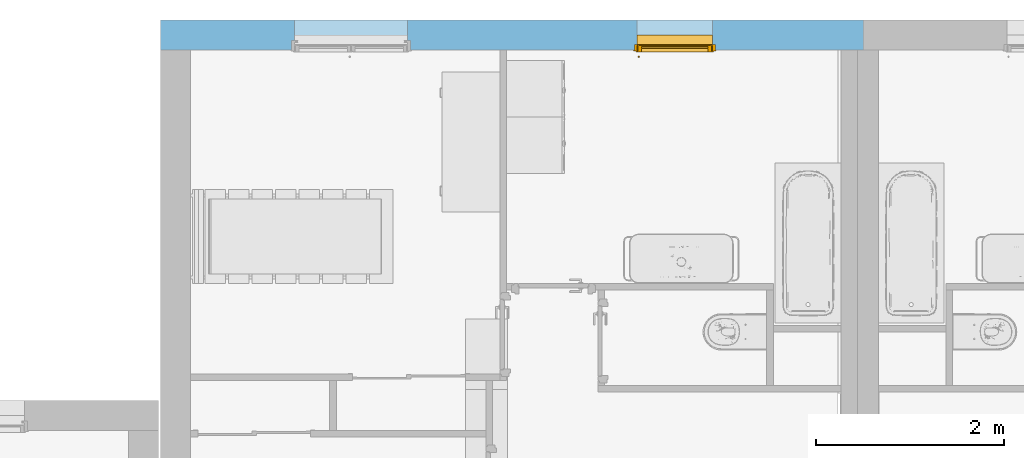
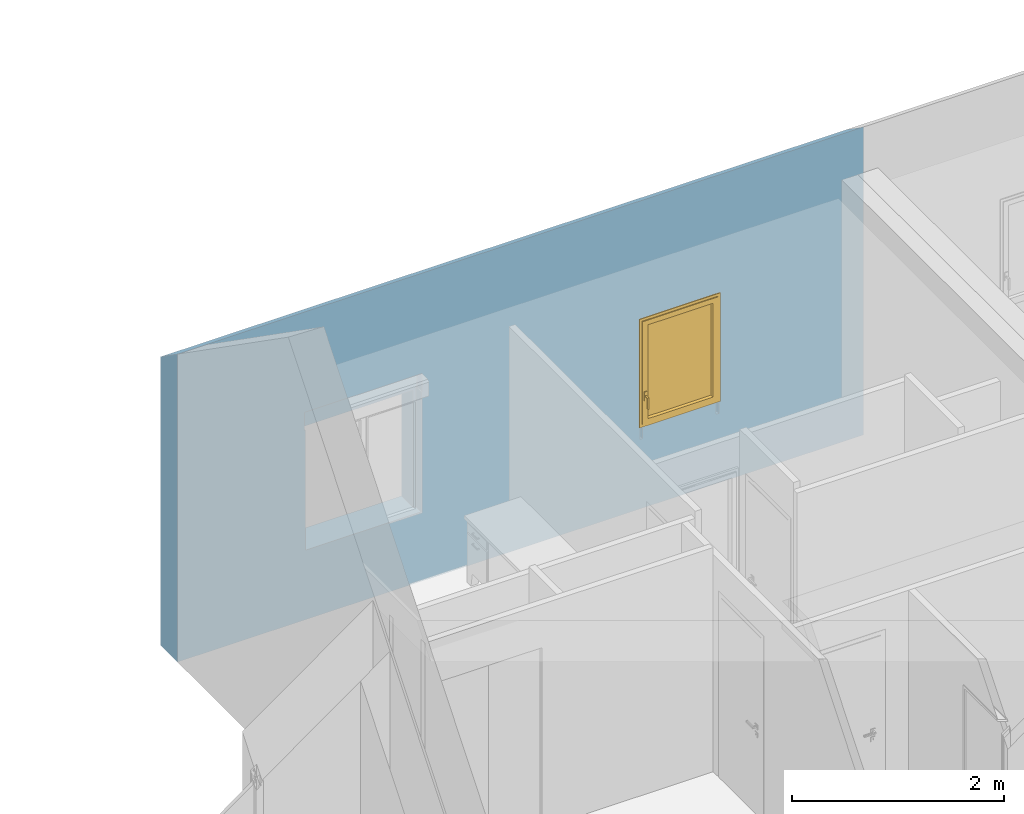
# One storey, part 48 of 61: 1 window, 2 openings, plus 1 element that does not belong to this part.
"""IFC2X3 building model written with IfcOpenShell, lengths in metres."""

from ifc_helpers import new_model, entity, si_unit, converted_unit, derived_unit, direction, frame, frame_2d, origin, place, context, subcontext, project, spatial, polyline, rectangle, extrude, clip, bounded_halfspace, faceted_brep, source, transform, mapped, material, material_list, layer, layer_set, layer_usage, type_object, type_shapes, element, fill, save


model = new_model("IFC2X3")

# Units and contexts
model_context = context("Model", 3, precision=1e-05, world=origin(), true_north=direction((6.12303176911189e-17, 1.0)))
body_context = subcontext(model_context, "Body", "Model", "MODEL_VIEW")
ifc_project = project(units=[si_unit("LENGTHUNIT", "METRE"), si_unit("AREAUNIT", "SQUARE_METRE"), si_unit("VOLUMEUNIT", "CUBIC_METRE"), converted_unit("PLANEANGLEUNIT", "DEGREE", entity("IfcRatioMeasure", 0.0174532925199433), si_unit("PLANEANGLEUNIT", "RADIAN"), dimensions=[0, 0, 0, 0, 0, 0, 0]), si_unit("MASSUNIT", "GRAM", prefix="KILO"), derived_unit("MASSDENSITYUNIT", [(si_unit("MASSUNIT", "GRAM", prefix="KILO"), 1), (si_unit("LENGTHUNIT", "METRE"), -3)]), si_unit("TIMEUNIT", "SECOND"), si_unit("FREQUENCYUNIT", "HERTZ"), si_unit("THERMODYNAMICTEMPERATUREUNIT", "DEGREE_CELSIUS"), derived_unit("THERMALTRANSMITTANCEUNIT", [(si_unit("MASSUNIT", "GRAM", prefix="KILO"), 1), (si_unit("THERMODYNAMICTEMPERATUREUNIT", "KELVIN"), -1), (si_unit("TIMEUNIT", "SECOND"), -3)]), derived_unit("VOLUMETRICFLOWRATEUNIT", [(si_unit("LENGTHUNIT", "METRE"), 3), (si_unit("TIMEUNIT", "SECOND"), -1)]), si_unit("ELECTRICCURRENTUNIT", "AMPERE"), si_unit("ELECTRICVOLTAGEUNIT", "VOLT"), si_unit("POWERUNIT", "WATT"), si_unit("FORCEUNIT", "NEWTON", prefix="KILO"), si_unit("ILLUMINANCEUNIT", "LUX"), si_unit("LUMINOUSFLUXUNIT", "LUMEN"), si_unit("LUMINOUSINTENSITYUNIT", "CANDELA"), derived_unit("USERDEFINED", [(si_unit("MASSUNIT", "GRAM", prefix="KILO"), -1), (si_unit("LENGTHUNIT", "METRE"), -2), (si_unit("TIMEUNIT", "SECOND"), 3), (si_unit("LUMINOUSFLUXUNIT", "LUMEN"), 1)]), derived_unit("LINEARVELOCITYUNIT", [(si_unit("LENGTHUNIT", "METRE"), 1), (si_unit("TIMEUNIT", "SECOND"), -1)]), si_unit("PRESSUREUNIT", "PASCAL"), derived_unit("USERDEFINED", [(si_unit("LENGTHUNIT", "METRE"), -2), (si_unit("MASSUNIT", "GRAM", prefix="KILO"), 1), (si_unit("TIMEUNIT", "SECOND"), -2)])], contexts=[model_context])

# Site, building, storey
site_placement = place(None, origin())
site = spatial("IfcSite", under=ifc_project, at=site_placement, Name="Surface", CompositionType="ELEMENT")
building_placement = place(site_placement, origin())
building = spatial("IfcBuilding", under=site, at=building_placement, CompositionType="ELEMENT")
storey_placement = place(building_placement, frame((0.0, 0.0, 2.82)))
storey = spatial("IfcBuildingStorey", under=building, at=storey_placement, Name="ETAGE", CompositionType="ELEMENT", Elevation=2.82)

# Wall, openings, window
ifc_material_1 = material(Name="Enduit blanc cassé2")
ifc_layer_1 = layer(ifc_material_1, 0.02)
ifc_material_2 = material(Name="Parpaing")
ifc_layer_2 = layer(ifc_material_2, 0.2)
ifc_material_3 = material(Name="Isolant")
ifc_layer_3 = layer(ifc_material_3, 0.1)
ifc_layer_set = layer_set([ifc_layer_1, ifc_layer_2, ifc_layer_3], Name="Mur de base:Ext. Parpaing 20 + Isolant 10 enduit blanc cassé")
ifc_layer_usage = layer_usage(ifc_layer_set, "AXIS2", "POSITIVE", -0.16)
wall_type = type_object("IfcWallType", Name="Mur de base:Ext. Parpaing 20 + Isolant 10 enduit blanc cassé", PredefinedType="STANDARD", material=ifc_layer_set)
wall_placement = place(storey_placement, frame((83.7689023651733, 92.3075239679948, 0.0), z_axis=(0.0, 0.0, 1.0), x_axis=(-1.0, 0.0, 0.0)))
wall = element("IfcWallStandardCase", 1, at=wall_placement, inside=storey, type_object=wall_type, material=ifc_layer_usage, Name="Mur de base:Ext. Parpaing 20 + Isolant 10 enduit blanc cassé", ObjectType="Mur de base:Ext. Parpaing 20 + Isolant 10 enduit blanc cassé", context=body_context, shape_type="Clipping", body=[
    clip(extrude(rectangle(XDim=7.46614635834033, YDim=0.319999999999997, at=frame_2d((3.73307317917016, -2.55351295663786e-15), x_axis=(-1.0, 0.0))), origin(), (0.0, 0.0, 1.0), 3.5440664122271), bounded_halfspace(frame((0.0, -0.159999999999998, 3.32), z_axis=(0.0, -0.573576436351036, 0.819152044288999), x_axis=(1.0, 0.0, 0.0)), False, frame((0.0, -0.159999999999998, 3.32)), polyline([(0.0, 0.0), (7.46614635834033, 0.0), (7.46614635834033, 0.319999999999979), (7.14614635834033, 0.319999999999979), (0.237500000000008, 0.319999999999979), (0.0625000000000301, 0.319999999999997), (0.0175000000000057, 0.319999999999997), (0.0, 0.319999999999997), (0.0, 0.0)]))),
])
opening_1_placement = place(wall_placement, frame((2.43394170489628, 0.259999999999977, 0.799999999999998), z_axis=(0.0, 0.0, 1.0), x_axis=(-1.0, 0.0, 0.0)))
opening_1 = element("IfcOpeningElement", 2, at=opening_1_placement, cuts=wall, Name="Mur de base:Ext. Parpaing 20 + Isolant 10 enduit blanc cassé", ObjectType="Opening", context=body_context, shape_type="Brep", body=[
    faceted_brep([(0.830000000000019, 0.0, 1.35), (0.830000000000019, 0.0999999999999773, 1.35), (0.0300000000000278, 0.0999999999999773, 1.35), (0.0300000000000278, 0.0, 1.35), (0.830000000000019, 0.720000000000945, 0.150000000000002), (0.830000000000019, 0.159999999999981, 0.150000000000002), (0.830000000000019, 0.0999999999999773, 0.150000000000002), (0.830000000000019, 0.0, 0.150000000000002), (0.0300000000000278, 0.0, 0.150000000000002), (0.0300000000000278, 0.0999999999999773, 0.150000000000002), (0.0300000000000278, 0.159999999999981, 0.150000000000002), (0.0300000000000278, 0.720000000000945, 0.150000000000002), (0.830000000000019, 0.720000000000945, 1.35), (0.0300000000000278, 0.720000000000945, 1.35), (0.830000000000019, 0.159999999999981, 1.35), (0.0300000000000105, 0.159999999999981, 0.0), (0.0300000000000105, 0.0999999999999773, 0.0), (0.0, 0.0999999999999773, 0.0), (0.0, 0.159999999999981, 0.0), (0.830000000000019, 0.0999999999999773, 0.0), (0.860000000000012, 0.0999999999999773, 0.0), (0.860000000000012, 0.0999999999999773, 1.38), (0.0, 0.0999999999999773, 1.38), (0.0, 0.159999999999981, 1.38), (0.860000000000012, 0.159999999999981, 1.38), (0.860000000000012, 0.159999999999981, 0.0), (0.830000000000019, 0.159999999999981, 0.0), (0.0300000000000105, 0.159999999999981, 1.35)], [[[0, 1, 2, 3]], [[4, 5, 6, 7, 8, 9, 10, 11]], [[12, 4, 11, 13]], [[3, 2, 9, 8]], [[3, 8, 7, 0]], [[12, 14, 5, 4]], [[15, 16, 17, 18]], [[15, 10, 9, 16]], [[16, 9, 2, 1, 6, 19, 20, 21, 22, 17]], [[17, 22, 23, 18]], [[18, 23, 24, 25, 26, 5, 14, 27, 10, 15]], [[21, 24, 23, 22]], [[19, 26, 25, 20]], [[19, 6, 5, 26]], [[20, 25, 24, 21]], [[7, 6, 1, 0]], [[11, 10, 27, 13]], [[13, 27, 14, 12]]]),
])
opening_2_placement = place(wall_placement, frame((6.0830731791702, 0.260000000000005, 0.799999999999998), z_axis=(0.0, 0.0, 1.0), x_axis=(-1.0, 0.0, 0.0)))
element("IfcOpeningElement", 3, at=opening_2_placement, cuts=wall, Name="Mur de base:Ext. Parpaing 20 + Isolant 10 enduit blanc cassé", ObjectType="Opening", context=body_context, shape_type="Brep", body=[
    faceted_brep([(1.24000000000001, 0.720000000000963, 1.35), (0.0400000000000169, 0.720000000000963, 1.35), (0.0400000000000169, 0.199999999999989, 1.35), (1.24000000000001, 0.200000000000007, 1.35), (0.0400000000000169, 0.720000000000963, 0.0), (1.24000000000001, 0.720000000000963, 0.0), (1.24000000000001, 0.200000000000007, 0.0), (1.27000000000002, 0.200000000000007, 0.0), (1.27000000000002, 0.0999999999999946, 0.0), (1.24000000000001, 0.0999999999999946, 0.0), (1.24000000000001, 0.0, 0.0), (0.0400000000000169, 0.0, 0.0), (0.0400000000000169, 0.0999999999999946, 0.0), (0.0100000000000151, 0.0999999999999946, 0.0), (0.0100000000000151, 0.199999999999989, 0.0), (0.0400000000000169, 0.199999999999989, 0.0), (1.24000000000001, 0.0, 1.35), (0.0400000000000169, 0.0, 1.35), (1.27000000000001, 0.0999999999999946, 1.38), (1.28000000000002, 0.100000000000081, 1.38000000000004), (1.28000000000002, 0.100000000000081, 1.59000000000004), (0.0, 0.100000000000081, 1.59000000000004), (0.0, 0.0999999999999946, 1.38000000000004), (0.0100000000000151, 0.0999999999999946, 1.38), (0.0400000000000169, 0.0999999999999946, 1.35), (1.24000000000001, 0.0999999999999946, 1.35), (1.27000000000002, 0.199999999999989, 1.38000000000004), (0.0100000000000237, 0.199999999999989, 1.38000000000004), (0.0, 0.200000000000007, 1.38000000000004), (0.0, 0.199999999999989, 1.59000000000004), (1.28000000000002, 0.200000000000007, 1.59000000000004), (1.28000000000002, 0.200000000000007, 1.38000000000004)], [[[0, 1, 2, 3]], [[4, 5, 6, 7, 8, 9, 10, 11, 12, 13, 14, 15]], [[1, 0, 5, 4]], [[5, 0, 3, 6]], [[16, 17, 11, 10]], [[1, 4, 15, 2]], [[9, 8, 18, 19, 20, 21, 22, 23, 13, 12, 24, 25]], [[8, 7, 26, 18]], [[7, 6, 3, 2, 15, 14, 27, 28, 29, 30, 31, 26]], [[13, 23, 27, 14]], [[31, 30, 20, 19]], [[28, 22, 21, 29]], [[31, 19, 18, 26]], [[20, 30, 29, 21]], [[22, 28, 27, 23]], [[11, 17, 24, 12]], [[16, 10, 9, 25]], [[17, 16, 25, 24]]]),
])
ifc_material_4 = material(Name="Plastique - Bouvet - Blanc W012")
ifc_material_5 = material(Name="Verre - Bouvet - Vitrage")
ifc_material_6 = material(Name="Polyamide - Bouvet - Joint-Intercalaire")
ifc_material_list_1 = material_list([ifc_material_4, ifc_material_5, ifc_material_6])
ifc_material_list_2 = material_list([ifc_material_4, ifc_material_5, ifc_material_6])
window_style = type_object("IfcWindowStyle", Name="800 x 120 ht", ConstructionType="NOTDEFINED", OperationType="NOTDEFINED", ParameterTakesPrecedence=False, Sizeable=False, material=ifc_material_list_2)
shared_shape = source(origin(), body_context, "Body", "Brep", [
    faceted_brep([(0.0549999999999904, 0.07000000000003, 0.492500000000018), (0.0399999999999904, 0.0700000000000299, 0.492500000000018), (0.0399999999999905, 0.0700000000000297, 0.507500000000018), (0.0549999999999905, 0.0700000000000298, 0.507500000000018), (0.0549999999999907, 0.0350000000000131, 0.492500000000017), (0.0399999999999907, 0.035000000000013, 0.492500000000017), (0.0399999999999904, 0.035000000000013, 0.3775), (0.0399999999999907, 0.020000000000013, 0.3775), (0.0399999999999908, 0.0200000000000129, 0.507500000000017), (0.0549999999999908, 0.0200000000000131, 0.507500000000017), (0.0549999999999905, 0.0200000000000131, 0.3775), (0.0549999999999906, 0.0350000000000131, 0.3775)], [[[0, 1, 2, 3]], [[1, 0, 4, 5]], [[2, 1, 5, 6, 7, 8]], [[3, 2, 8, 9]], [[0, 3, 9, 10, 11, 4]], [[11, 10, 7, 6]], [[5, 4, 11, 6]], [[9, 8, 7, 10]]]),
    faceted_brep([(0.0625000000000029, 0.0700000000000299, 0.550000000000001), (0.0325000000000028, 0.07000000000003, 0.550000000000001), (0.0325000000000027, 0.07000000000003, 0.450000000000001), (0.0625000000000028, 0.0700000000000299, 0.450000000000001), (0.062500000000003, 0.0799999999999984, 0.550000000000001), (0.0625000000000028, 0.0799999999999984, 0.450000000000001), (0.0325000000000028, 0.0799999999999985, 0.450000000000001), (0.0325000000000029, 0.0799999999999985, 0.550000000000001)], [[[0, 1, 2, 3]], [[4, 5, 6, 7]], [[1, 0, 4, 7]], [[2, 1, 7, 6]], [[3, 2, 6, 5]], [[0, 3, 5, 4]]]),
    faceted_brep([(0.796999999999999, 0.117999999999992, 0.213), (0.0630000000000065, 0.117999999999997, 0.213), (0.0630000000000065, 0.121999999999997, 0.213), (0.796999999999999, 0.121999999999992, 0.213), (0.796999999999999, 0.117999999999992, 1.31700000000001), (0.0630000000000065, 0.117999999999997, 1.31700000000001), (0.0630000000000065, 0.121999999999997, 1.31700000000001), (0.796999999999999, 0.121999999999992, 1.31700000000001)], [[[0, 1, 2, 3]], [[4, 5, 1, 0]], [[5, 6, 2, 1]], [[6, 7, 3, 2]], [[7, 4, 0, 3]], [[4, 7, 6, 5]]]),
    faceted_brep([(0.0630000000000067, 0.137999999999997, 1.31700000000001), (0.0630000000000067, 0.141999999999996, 1.31700000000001), (0.0630000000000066, 0.141999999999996, 0.213), (0.0630000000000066, 0.137999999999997, 0.213), (0.796999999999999, 0.141999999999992, 1.31700000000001), (0.796999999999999, 0.141999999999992, 0.213), (0.796999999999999, 0.137999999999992, 1.31700000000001), (0.796999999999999, 0.137999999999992, 0.213)], [[[0, 1, 2, 3]], [[1, 4, 5, 2]], [[4, 6, 7, 5]], [[6, 0, 3, 7]], [[0, 6, 4, 1]], [[3, 2, 5, 7]]]),
    faceted_brep([(0.0750000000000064, 0.137999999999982, 1.30499999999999), (0.0750000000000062, 0.121999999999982, 1.30499999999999), (0.0750000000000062, 0.121999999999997, 0.225000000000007), (0.0750000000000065, 0.137999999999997, 0.225000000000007), (0.784999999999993, 0.121999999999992, 0.225000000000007), (0.784999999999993, 0.137999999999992, 0.225000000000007), (0.784999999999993, 0.121999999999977, 1.30499999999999), (0.796999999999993, 0.121999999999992, 0.213000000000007), (0.796999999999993, 0.121999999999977, 1.31699999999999), (0.0630000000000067, 0.121999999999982, 1.31699999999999), (0.0630000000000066, 0.121999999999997, 0.213000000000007), (0.784999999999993, 0.137999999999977, 1.30499999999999), (0.0630000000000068, 0.137999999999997, 0.213000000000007), (0.0630000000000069, 0.137999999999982, 1.31699999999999), (0.796999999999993, 0.137999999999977, 1.31699999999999), (0.796999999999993, 0.137999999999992, 0.213000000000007)], [[[0, 1, 2, 3]], [[3, 2, 4, 5]], [[2, 1, 6, 4], [7, 8, 9, 10]], [[5, 4, 6, 11]], [[5, 11, 0, 3], [12, 13, 14, 15]], [[9, 13, 12, 10]], [[10, 12, 15, 7]], [[7, 15, 14, 8]], [[11, 6, 1, 0]], [[8, 14, 13, 9]]], outer=[[True], [True], [False, True], [True], [False, True], [True], [True], [True], [True], [True]]),
    faceted_brep([(0.0630000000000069, 0.141999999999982, 1.31699999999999), (0.0630000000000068, 0.117999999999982, 1.31699999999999), (0.0630000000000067, 0.117999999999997, 0.213000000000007), (0.0630000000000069, 0.141999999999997, 0.213000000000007), (0.796999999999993, 0.117999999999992, 0.213000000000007), (0.796999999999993, 0.141999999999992, 0.213000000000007), (0.796999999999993, 0.117999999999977, 1.31699999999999), (0.804999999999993, 0.117999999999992, 0.205000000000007), (0.804999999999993, 0.117999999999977, 1.32499999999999), (0.0550000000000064, 0.117999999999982, 1.32499999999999), (0.0550000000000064, 0.117999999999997, 0.205000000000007), (0.796999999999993, 0.141999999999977, 1.31699999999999), (0.0550000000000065, 0.141999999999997, 0.205000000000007), (0.0550000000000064, 0.141999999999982, 1.32499999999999), (0.804999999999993, 0.141999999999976, 1.32499999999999), (0.804999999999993, 0.141999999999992, 0.205000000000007)], [[[0, 1, 2, 3]], [[3, 2, 4, 5]], [[2, 1, 6, 4], [7, 8, 9, 10]], [[5, 4, 6, 11]], [[5, 11, 0, 3], [12, 13, 14, 15]], [[9, 13, 12, 10]], [[10, 12, 15, 7]], [[7, 15, 14, 8]], [[11, 6, 1, 0]], [[8, 14, 13, 9]]], outer=[[True], [True], [False, True], [True], [False, True], [True], [True], [True], [True], [True]]),
    faceted_brep([(0.0400000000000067, 0.129999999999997, 1.33999999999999), (0.0400000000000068, 0.149999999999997, 1.33999999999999), (0.0400000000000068, 0.150000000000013, 0.190000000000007), (0.0400000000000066, 0.130000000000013, 0.190000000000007), (0.819999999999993, 0.150000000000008, 0.190000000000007), (0.819999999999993, 0.130000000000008, 0.190000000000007), (0.819999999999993, 0.149999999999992, 1.33999999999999), (0.784999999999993, 0.150000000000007, 0.225000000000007), (0.784999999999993, 0.149999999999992, 1.30499999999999), (0.0750000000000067, 0.149999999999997, 1.30499999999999), (0.0750000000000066, 0.150000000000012, 0.225000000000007), (0.819999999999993, 0.129999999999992, 1.33999999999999), (0.0550000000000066, 0.130000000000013, 0.205000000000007), (0.0550000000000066, 0.129999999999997, 1.32499999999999), (0.804999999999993, 0.129999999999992, 1.32499999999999), (0.804999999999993, 0.130000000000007, 0.205000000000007), (0.0550000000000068, 0.141999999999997, 1.32499999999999), (0.0550000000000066, 0.142000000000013, 0.205000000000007), (0.804999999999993, 0.142000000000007, 0.205000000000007), (0.804999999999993, 0.141999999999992, 1.32499999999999), (0.0750000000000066, 0.142000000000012, 0.225000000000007), (0.0750000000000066, 0.141999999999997, 1.30499999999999), (0.784999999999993, 0.141999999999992, 1.30499999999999), (0.784999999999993, 0.142000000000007, 0.225000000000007)], [[[0, 1, 2, 3]], [[3, 2, 4, 5]], [[2, 1, 6, 4], [7, 8, 9, 10]], [[5, 4, 6, 11]], [[5, 11, 0, 3], [12, 13, 14, 15]], [[16, 13, 12, 17]], [[17, 12, 15, 18]], [[18, 15, 14, 19]], [[18, 19, 16, 17], [20, 21, 22, 23]], [[9, 21, 20, 10]], [[10, 20, 23, 7]], [[7, 23, 22, 8]], [[11, 6, 1, 0]], [[19, 14, 13, 16]], [[8, 22, 21, 9]]]),
    faceted_brep([(0.0750000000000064, 0.117999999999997, 1.30499999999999), (0.0750000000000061, 0.0799999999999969, 1.30499999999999), (0.0750000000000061, 0.0800000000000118, 0.225000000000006), (0.0750000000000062, 0.118000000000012, 0.225000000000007), (0.784999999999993, 0.080000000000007, 0.225000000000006), (0.784999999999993, 0.118000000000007, 0.225000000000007), (0.784999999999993, 0.0799999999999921, 1.30499999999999), (0.839999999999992, 0.0800000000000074, 0.170000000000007), (0.839999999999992, 0.0799999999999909, 1.35999999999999), (0.0200000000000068, 0.0799999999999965, 1.35999999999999), (0.0200000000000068, 0.0800000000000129, 0.170000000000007), (0.784999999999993, 0.117999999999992, 1.30499999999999), (0.0550000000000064, 0.118000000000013, 0.205000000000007), (0.0550000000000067, 0.117999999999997, 1.32499999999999), (0.804999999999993, 0.117999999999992, 1.32499999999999), (0.804999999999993, 0.118000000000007, 0.205000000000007), (0.0550000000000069, 0.129999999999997, 1.32499999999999), (0.0550000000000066, 0.130000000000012, 0.205000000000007), (0.804999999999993, 0.130000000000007, 0.205000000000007), (0.804999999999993, 0.129999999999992, 1.32499999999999), (0.0400000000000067, 0.130000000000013, 0.190000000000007), (0.0400000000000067, 0.129999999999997, 1.33999999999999), (0.819999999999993, 0.129999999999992, 1.33999999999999), (0.819999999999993, 0.130000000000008, 0.190000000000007), (0.0400000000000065, 0.0899999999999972, 1.33999999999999), (0.0400000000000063, 0.0900000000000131, 0.190000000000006), (0.819999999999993, 0.0900000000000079, 0.190000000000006), (0.819999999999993, 0.089999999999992, 1.33999999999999), (0.0200000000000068, 0.0900000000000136, 0.170000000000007), (0.0200000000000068, 0.0899999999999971, 1.35999999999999), (0.839999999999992, 0.0899999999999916, 1.35999999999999), (0.839999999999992, 0.090000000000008, 0.170000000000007)], [[[0, 1, 2, 3]], [[3, 2, 4, 5]], [[2, 1, 6, 4], [7, 8, 9, 10]], [[5, 4, 6, 11]], [[5, 11, 0, 3], [12, 13, 14, 15]], [[16, 13, 12, 17]], [[17, 12, 15, 18]], [[18, 15, 14, 19]], [[18, 19, 16, 17], [20, 21, 22, 23]], [[24, 21, 20, 25]], [[25, 20, 23, 26]], [[26, 23, 22, 27]], [[26, 27, 24, 25], [28, 29, 30, 31]], [[9, 29, 28, 10]], [[10, 28, 31, 7]], [[7, 31, 30, 8]], [[11, 6, 1, 0]], [[19, 14, 13, 16]], [[27, 22, 21, 24]], [[8, 30, 29, 9]]], outer=[[True], [True], [False, True], [True], [False, True], [True], [True], [True], [False, True], [True], [True], [True], [False, True], [True], [True], [True], [True], [True], [True], [True]]),
    faceted_brep([(0.829999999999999, 0.159999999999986, 0.180000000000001), (0.0299999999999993, 0.159999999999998, 0.180000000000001), (0.0299999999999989, 0.137999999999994, 0.180000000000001), (0.829999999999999, 0.137999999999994, 0.180000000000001), (0.829999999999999, 0.159999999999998, 1.35), (0.0299999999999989, 0.159999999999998, 1.35), (0.0, 0.159999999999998, 0.150000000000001), (0.0, 0.159999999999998, 1.38000000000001), (0.859999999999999, 0.159999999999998, 1.38000000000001), (0.859999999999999, 0.159999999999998, 0.150000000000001), (0.0299999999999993, 0.137999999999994, 1.35), (0.829999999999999, 0.137999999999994, 1.35), (0.0, 0.137999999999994, 1.38000000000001), (0.0, 0.137999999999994, 0.150000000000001), (0.859999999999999, 0.137999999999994, 1.38000000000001), (0.859999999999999, 0.137999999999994, 0.150000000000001)], [[[0, 1, 2, 3]], [[4, 5, 1, 0], [6, 7, 8, 9]], [[5, 10, 2, 1]], [[11, 4, 0, 3]], [[12, 7, 6, 13]], [[8, 14, 15, 9]], [[15, 13, 6, 9]], [[15, 14, 12, 13], [10, 11, 3, 2]], [[7, 12, 14, 8]], [[5, 4, 11, 10]]], outer=[[True], [False, True], [True], [True], [True], [True], [True], [True, False], [True], [True]]),
    faceted_brep([(0.0500000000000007, 0.159999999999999, 1.33), (0.0500000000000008, 0.15, 1.33), (0.0500000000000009, 0.15, 0.200000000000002), (0.0500000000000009, 0.159999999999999, 0.200000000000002), (0.809999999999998, 0.15, 0.200000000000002), (0.809999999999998, 0.159999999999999, 0.200000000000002), (0.809999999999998, 0.15, 1.33), (0.829999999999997, 0.15, 0.180000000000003), (0.829999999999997, 0.15, 1.35), (0.0300000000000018, 0.15, 1.35), (0.0300000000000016, 0.15, 0.180000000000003), (0.809999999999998, 0.159999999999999, 1.33), (0.0300000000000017, 0.159999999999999, 0.180000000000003), (0.0300000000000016, 0.159999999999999, 1.35), (0.829999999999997, 0.159999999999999, 1.35), (0.829999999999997, 0.159999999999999, 0.180000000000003)], [[[0, 1, 2, 3]], [[3, 2, 4, 5]], [[2, 1, 6, 4], [7, 8, 9, 10]], [[5, 4, 6, 11]], [[5, 11, 0, 3], [12, 13, 14, 15]], [[11, 6, 1, 0]], [[9, 13, 12, 10]], [[10, 12, 15, 7]], [[7, 15, 14, 8]], [[8, 14, 13, 9]]], outer=[[True], [True], [False, True], [True], [False, True], [True], [True], [True], [True], [True]]),
    faceted_brep([(0.0, 0.0999999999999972, 1.38), (0.0, 0.137999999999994, 1.38), (0.0, 0.137999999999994, 0.150000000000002), (0.0, 0.0999999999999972, 0.150000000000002), (0.859999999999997, 0.137999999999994, 0.150000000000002), (0.859999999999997, 0.0999999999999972, 0.150000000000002), (0.859999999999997, 0.137999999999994, 1.38), (0.829999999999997, 0.137999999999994, 0.180000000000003), (0.829999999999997, 0.137999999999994, 1.35), (0.0300000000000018, 0.137999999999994, 1.35), (0.0300000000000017, 0.137999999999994, 0.180000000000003), (0.859999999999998, 0.0999999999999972, 1.38), (-0.00999999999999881, 0.0999999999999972, 0.140000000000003), (-0.00999999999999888, 0.0999999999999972, 1.39), (0.869999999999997, 0.0999999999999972, 1.39), (0.869999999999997, 0.0999999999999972, 0.140000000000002), (-0.00999999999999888, 0.0900000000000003, 1.39), (-0.00999999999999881, 0.0900000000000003, 0.140000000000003), (0.869999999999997, 0.0900000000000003, 0.140000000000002), (0.869999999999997, 0.0900000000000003, 1.39), (0.0300000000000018, 0.0900000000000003, 0.180000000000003), (0.0300000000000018, 0.0900000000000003, 1.35), (0.829999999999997, 0.0900000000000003, 1.35), (0.829999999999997, 0.0900000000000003, 0.180000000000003)], [[[0, 1, 2, 3]], [[3, 2, 4, 5]], [[2, 1, 6, 4], [7, 8, 9, 10]], [[5, 4, 6, 11]], [[5, 11, 0, 3], [12, 13, 14, 15]], [[16, 13, 12, 17]], [[17, 12, 15, 18]], [[18, 15, 14, 19]], [[18, 19, 16, 17], [20, 21, 22, 23]], [[9, 21, 20, 10]], [[10, 20, 23, 7]], [[7, 23, 22, 8]], [[11, 6, 1, 0]], [[19, 14, 13, 16]], [[8, 22, 21, 9]]], outer=[[True], [True], [True, False], [True], [False, True], [True], [True], [True], [True, False], [True], [True], [True], [True], [True], [True]]),
    faceted_brep([(0.829999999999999, 0.259999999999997, 0.160000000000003), (0.829999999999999, 0.159999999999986, 0.165000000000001), (0.829999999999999, 0.159999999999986, 0.150000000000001), (0.829999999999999, 0.259999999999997, 0.150000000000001), (0.0299999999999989, 0.259999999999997, 0.160000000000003), (0.0299999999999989, 0.259999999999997, 0.150000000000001), (0.0299999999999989, 0.159999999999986, 0.150000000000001), (0.0299999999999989, 0.159999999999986, 0.165000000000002)], [[[0, 1, 2, 3]], [[4, 5, 6, 7]], [[1, 0, 4, 7]], [[2, 1, 7, 6]], [[3, 2, 6, 5]], [[0, 3, 5, 4]]]),
])
type_shapes(window_style, [shared_shape])
window_placement = place(opening_1_placement, origin())
window = element("IfcWindow", 4, at=window_placement, inside=storey, type_object=window_style, material=ifc_material_list_1, Name="Windows_Opening-Hinge_BOUVET_Thermience_Fenetre_1V:800 x 120 ht", ObjectType="Windows_Opening-Hinge_BOUVET_Thermience_Fenetre_1V:800 x 120 ht", OverallHeight=1.39, OverallWidth=0.880000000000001, context=body_context, shape_type="MappedRepresentation", body=[
    mapped(shared_shape, transform((0.0, 0.0, 0.0), scale=1.0)),
])
fill(opening_1, window)

save(model, "model.ifc")
